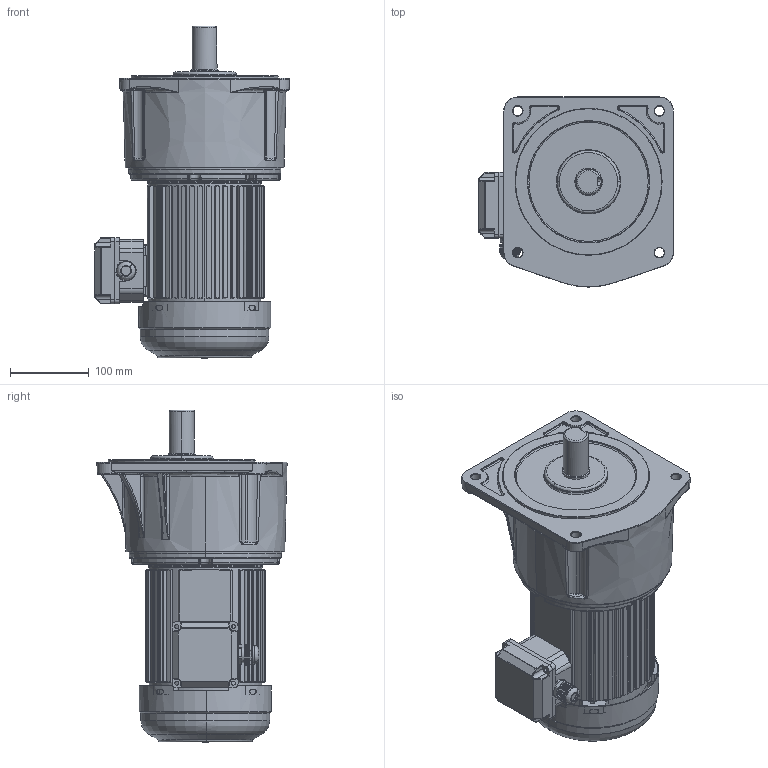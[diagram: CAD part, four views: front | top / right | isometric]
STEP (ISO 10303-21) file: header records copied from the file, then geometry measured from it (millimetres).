
FILE_DESCRIPTION (( 'STEP AP203' ), '1' );
FILE_NAME ('750W饜4#湍价陬蕾宒.STEP', '2020-04-17T07:31:49', ( '' ), ( '' ), 'SwSTEP 2.0', 'SolidWorks 2019', '' );
FILE_SCHEMA (( 'CONFIG_CONTROL_DESIGN' ));
Length unit declared in the file: millimetre
Products named in the file (5): 750W饜4#湍价陬蕾宒; 750W价陬瑞欶; 750W饜4#蕾宒; 湍价陬諉盄碟裔; 750W棠憤迖殤
Assembly tree (4 placements, depth 2):
  750W饜4#湍价陬蕾宒
    750W饜4#蕾宒
    750W棠憤迖殤
    750W价陬瑞欶
    湍价陬諉盄碟裔
Bounding box: 247.98 x 241.97 x 422.5 mm (x, y, z)
Volume: 341621.7 mm3; surface area: 792192.9 mm2
Topology: 3 solids, 12 shells, 3353 faces, 8702 edges, 5361 vertices
Faces by surface type: plane 1042, cylinder 916, bspline 862, torus 280, cone 165, sphere 88
Entity records: 165695 total; most frequent: CARTESIAN_POINT 93276, ORIENTED_EDGE 17158, DIRECTION 11829, EDGE_CURVE 8581, VERTEX_POINT 5354, AXIS2_PLACEMENT_3D 4432, EDGE_LOOP 3717, B_SPLINE_CURVE_WITH_KNOTS 3392
